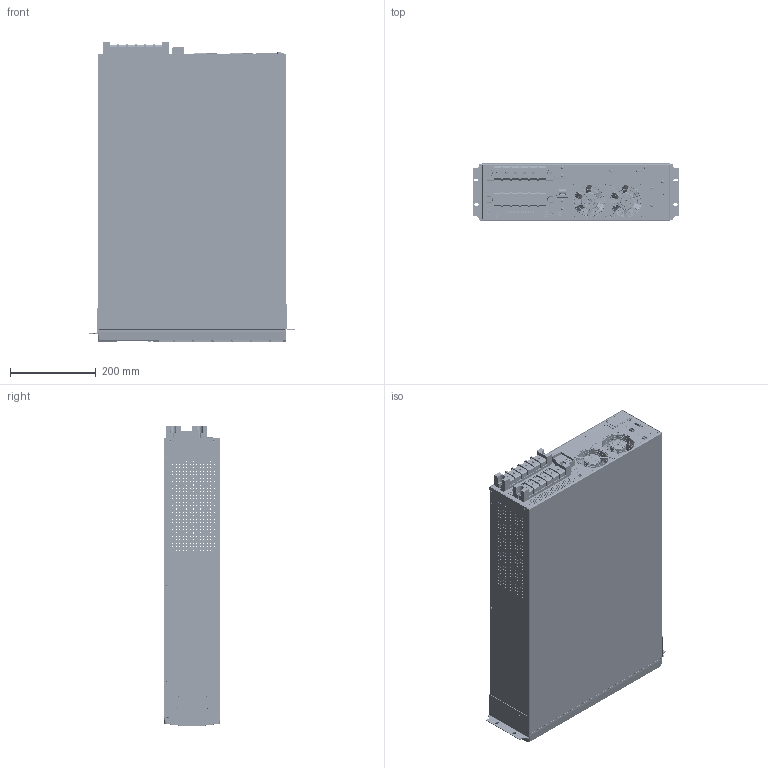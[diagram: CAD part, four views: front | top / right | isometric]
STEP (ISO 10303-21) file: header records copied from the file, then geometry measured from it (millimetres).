
FILE_DESCRIPTION (( 'STEP AP203' ), '1' );
FILE_NAME ('TRIOTM15A0P áåç êðûøêè.STEP', '2025-05-05T06:22:53', ( '' ), ( '' ), 'SwSTEP 2.0', 'SolidWorks 2022', '' );
FILE_SCHEMA (( 'CONFIG_CONTROL_DESIGN' ));
Products named in the file (1): TRIOTM15A0P без крышки
Bounding box: 483 x 132 x 702.56 mm (x, y, z)
Surface area: 2162171.6 mm2 (no closed solid volume)
Topology: 0 solids, 162 shells, 8954 faces, 24923 edges, 16118 vertices
Faces by surface type: plane 4121, cylinder 3922, bspline 636, cone 155, torus 100, sphere 20
Entity records: 363056 total; most frequent: CARTESIAN_POINT 139260, ORIENTED_EDGE 49594, DIRECTION 39872, EDGE_CURVE 24923, VERTEX_POINT 16118, AXIS2_PLACEMENT_3D 14302, EDGE_LOOP 12365, LINE 11268
